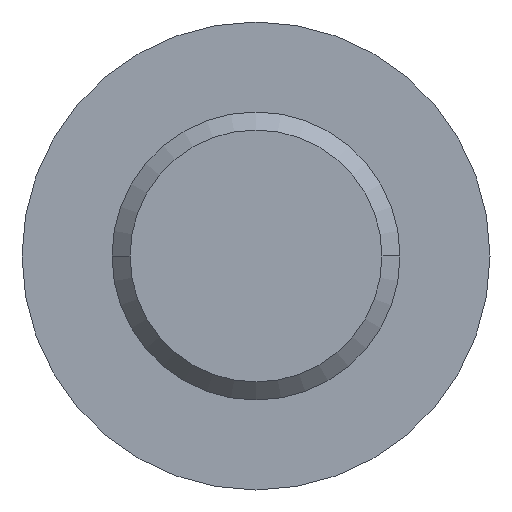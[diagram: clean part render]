
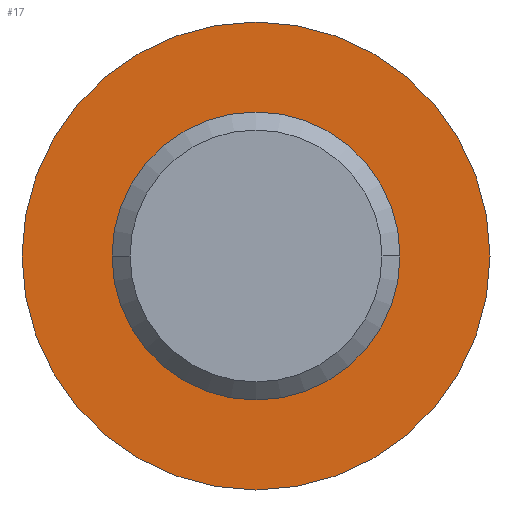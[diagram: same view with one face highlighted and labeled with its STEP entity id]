
A CAD part, front view. The second image highlights one B-rep face of the part: STEP entity #17.
In plain terms, the highlighted planar face has unit normal (0, -1, 0).
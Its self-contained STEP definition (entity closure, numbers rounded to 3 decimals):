
#17 = ADVANCED_FACE ( 'NONE', ( #67, #459 ), #380, .T. ) ;
#45 = AXIS2_PLACEMENT_3D ( 'NONE', #166, #161, #137 ) ;
#51 = AXIS2_PLACEMENT_3D ( 'NONE', #134, #112, #200 ) ;
#52 = AXIS2_PLACEMENT_3D ( 'NONE', #99, #181, #94 ) ;
#67 = FACE_OUTER_BOUND ( 'NONE', #257, .T. ) ;
#81 = ORIENTED_EDGE ( 'NONE', *, *, #301, .T. ) ;
#89 = ORIENTED_EDGE ( 'NONE', *, *, #322, .F. ) ;
#90 = ORIENTED_EDGE ( 'NONE', *, *, #323, .T. ) ;
#94 = DIRECTION ( 'NONE',  ( 1., 0., 0. ) ) ;
#95 = CARTESIAN_POINT ( 'NONE',  ( 4., 0., 0. ) ) ;
#99 = CARTESIAN_POINT ( 'NONE',  ( 0., 0., 0. ) ) ;
#112 = DIRECTION ( 'NONE',  ( 0., -1., 0. ) ) ;
#116 = CARTESIAN_POINT ( 'NONE',  ( 0., 0., 0. ) ) ;
#124 = DIRECTION ( 'NONE',  ( 1., 0., 0. ) ) ;
#134 = CARTESIAN_POINT ( 'NONE',  ( 0., 0., 0. ) ) ;
#137 = DIRECTION ( 'NONE',  ( 1., 0., 0. ) ) ;
#149 = DIRECTION ( 'NONE',  ( 0., -1., 0. ) ) ;
#156 = CARTESIAN_POINT ( 'NONE',  ( -4., 0., 0. ) ) ;
#161 = DIRECTION ( 'NONE',  ( 0., -1., 0. ) ) ;
#166 = CARTESIAN_POINT ( 'NONE',  ( 0., 0., 0. ) ) ;
#181 = DIRECTION ( 'NONE',  ( 0., -1., 0. ) ) ;
#200 = DIRECTION ( 'NONE',  ( 1., 0., 0. ) ) ;
#211 = CIRCLE ( 'NONE', #437, 6.5 ) ;
#223 = CIRCLE ( 'NONE', #45, 4. ) ;
#237 = CIRCLE ( 'NONE', #51, 4. ) ;
#238 = CIRCLE ( 'NONE', #52, 6.5 ) ;
#257 = EDGE_LOOP ( 'NONE', ( #90, #81 ) ) ;
#262 = EDGE_LOOP ( 'NONE', ( #265, #89 ) ) ;
#265 = ORIENTED_EDGE ( 'NONE', *, *, #311, .F. ) ;
#280 = VERTEX_POINT ( 'NONE', #350 ) ;
#281 = VERTEX_POINT ( 'NONE', #349 ) ;
#301 = EDGE_CURVE ( 'NONE', #280, #281, #211, .T. ) ;
#311 = EDGE_CURVE ( 'NONE', #402, #395, #223, .T. ) ;
#322 = EDGE_CURVE ( 'NONE', #395, #402, #237, .T. ) ;
#323 = EDGE_CURVE ( 'NONE', #281, #280, #238, .T. ) ;
#349 = CARTESIAN_POINT ( 'NONE',  ( 6.5, 0., 0. ) ) ;
#350 = CARTESIAN_POINT ( 'NONE',  ( -6.5, 0., 0. ) ) ;
#379 = DIRECTION ( 'NONE',  ( 1., 0., 0. ) ) ;
#380 = PLANE ( 'NONE',  #430 ) ;
#381 = CARTESIAN_POINT ( 'NONE',  ( 6.5, 0., 0. ) ) ;
#383 = DIRECTION ( 'NONE',  ( 0., -1., 0. ) ) ;
#395 = VERTEX_POINT ( 'NONE', #156 ) ;
#402 = VERTEX_POINT ( 'NONE', #95 ) ;
#430 = AXIS2_PLACEMENT_3D ( 'NONE', #381, #383, #379 ) ;
#437 = AXIS2_PLACEMENT_3D ( 'NONE', #116, #149, #124 ) ;
#459 = FACE_BOUND ( 'NONE', #262, .T. ) ;
